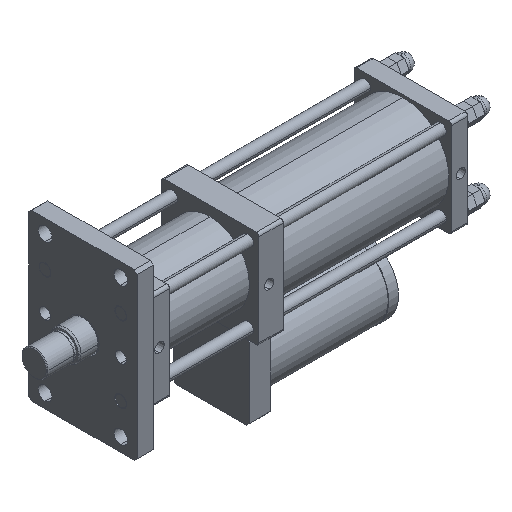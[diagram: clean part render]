
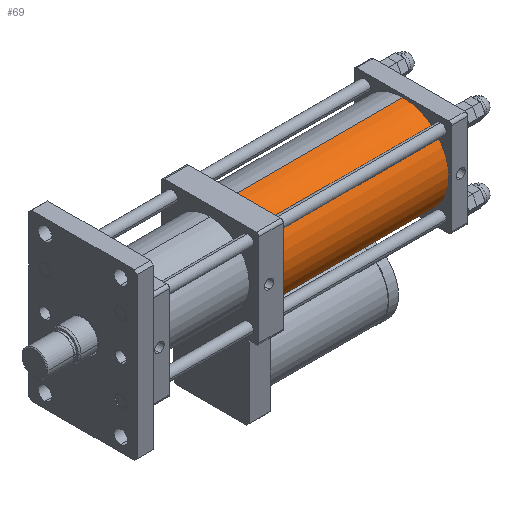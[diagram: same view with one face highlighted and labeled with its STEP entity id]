
A CAD part, isometric view. The second image highlights one B-rep face of the part: STEP entity #69.
In plain terms, the highlighted cylindrical face has radius 85 mm (diameter 170 mm), a partial arc.
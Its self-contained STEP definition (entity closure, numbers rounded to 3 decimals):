
#12 = CARTESIAN_POINT ( 'NONE',  ( 370., 0., 0. ) ) ;
#69 = ADVANCED_FACE ( 'NONE', ( #901 ), #4492, .T. ) ;
#410 = CIRCLE ( 'NONE', #8026, 85. ) ;
#715 = DIRECTION ( 'NONE',  ( 0., 0., -1. ) ) ;
#901 = FACE_OUTER_BOUND ( 'NONE', #5255, .T. ) ;
#1394 = AXIS2_PLACEMENT_3D ( 'NONE', #7385, #3379, #8054 ) ;
#1735 = CARTESIAN_POINT ( 'NONE',  ( 370., 0., 85. ) ) ;
#2219 = CARTESIAN_POINT ( 'NONE',  ( 681., 0., 85. ) ) ;
#2247 = LINE ( 'NONE', #7287, #3935 ) ;
#2516 = VERTEX_POINT ( 'NONE', #5113 ) ;
#3078 = VERTEX_POINT ( 'NONE', #1735 ) ;
#3379 = DIRECTION ( 'NONE',  ( 1., 0., 0. ) ) ;
#3482 = VECTOR ( 'NONE', #7567, 1000. ) ;
#3570 = CARTESIAN_POINT ( 'NONE',  ( 681., 0., 85. ) ) ;
#3732 = ORIENTED_EDGE ( 'NONE', *, *, #8399, .F. ) ;
#3935 = VECTOR ( 'NONE', #4675, 1000. ) ;
#4073 = EDGE_CURVE ( 'NONE', #7485, #3078, #6857, .T. ) ;
#4482 = DIRECTION ( 'NONE',  ( 0., 0., 1. ) ) ;
#4487 = CARTESIAN_POINT ( 'NONE',  ( 681., 0., 0. ) ) ;
#4492 = CYLINDRICAL_SURFACE ( 'NONE', #6478, 85. ) ;
#4627 = DIRECTION ( 'NONE',  ( -1., 0., 0. ) ) ;
#4675 = DIRECTION ( 'NONE',  ( -1., 0., 0. ) ) ;
#4985 = DIRECTION ( 'NONE',  ( 1., 0., 0. ) ) ;
#5113 = CARTESIAN_POINT ( 'NONE',  ( 370., 0., -85. ) ) ;
#5207 = CIRCLE ( 'NONE', #1394, 85. ) ;
#5255 = EDGE_LOOP ( 'NONE', ( #3732, #5389, #6581, #5898 ) ) ;
#5389 = ORIENTED_EDGE ( 'NONE', *, *, #5407, .F. ) ;
#5407 = EDGE_CURVE ( 'NONE', #7485, #6175, #5207, .T. ) ;
#5780 = CARTESIAN_POINT ( 'NONE',  ( 681., 0., -85. ) ) ;
#5898 = ORIENTED_EDGE ( 'NONE', *, *, #6537, .T. ) ;
#6175 = VERTEX_POINT ( 'NONE', #5780 ) ;
#6478 = AXIS2_PLACEMENT_3D ( 'NONE', #4487, #4627, #4482 ) ;
#6537 = EDGE_CURVE ( 'NONE', #3078, #2516, #410, .T. ) ;
#6581 = ORIENTED_EDGE ( 'NONE', *, *, #4073, .T. ) ;
#6857 = LINE ( 'NONE', #3570, #3482 ) ;
#7287 = CARTESIAN_POINT ( 'NONE',  ( 681., 0., -85. ) ) ;
#7385 = CARTESIAN_POINT ( 'NONE',  ( 681., 0., 0. ) ) ;
#7485 = VERTEX_POINT ( 'NONE', #2219 ) ;
#7567 = DIRECTION ( 'NONE',  ( -1., 0., 0. ) ) ;
#8026 = AXIS2_PLACEMENT_3D ( 'NONE', #12, #4985, #715 ) ;
#8054 = DIRECTION ( 'NONE',  ( 0., 0., -1. ) ) ;
#8399 = EDGE_CURVE ( 'NONE', #6175, #2516, #2247, .T. ) ;
